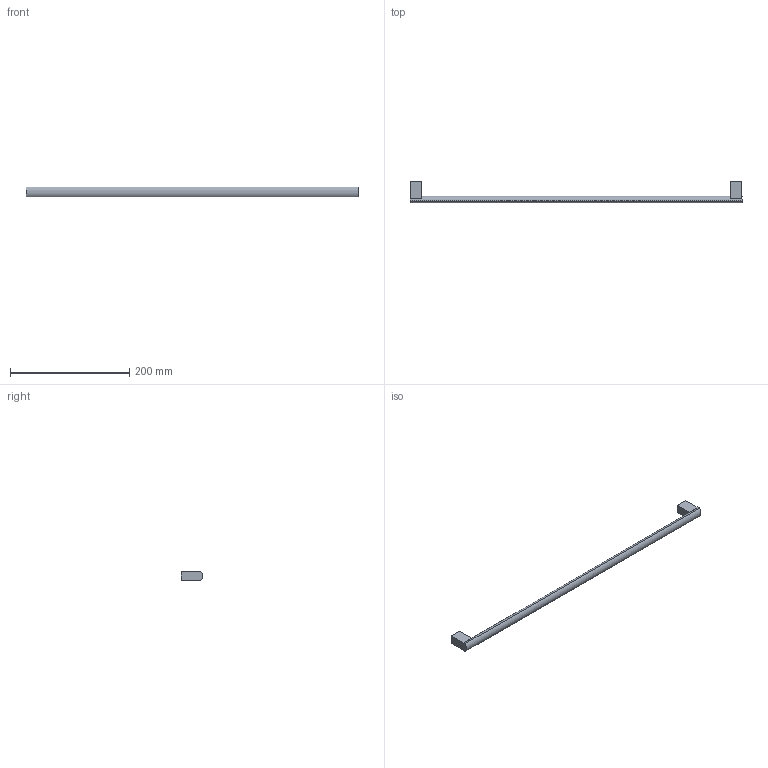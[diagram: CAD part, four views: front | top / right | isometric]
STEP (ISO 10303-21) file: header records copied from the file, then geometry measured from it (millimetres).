
FILE_DESCRIPTION( ( 'STEP AP214' ), '1' );
FILE_NAME( 'D:/Shahbaz D&D/Task/Check and correct handles with 3 drill sockets/Clivia/115214.stp', '2023-02-20T11:09:00', ( '' ), ( '' ), ' ', 'PARTsolutions', ' ' );
FILE_SCHEMA( ( 'AUTOMOTIVE_DESIGN { 1 0 10303 214 1 1 1 1 }' ) );
Length unit declared in the file: millimetre
Products named in the file (1): _115214
Bounding box: 556 x 35.96 x 16 mm (x, y, z)
Volume: 89804.9 mm3; surface area: 28027.9 mm2
Topology: 1 solids, 1 shells, 21 faces, 48 edges, 32 vertices
Faces by surface type: plane 17, cylinder 4
Full cylindrical faces by diameter (mm): 4 x2
Entity records: 768 total; most frequent: DIRECTION 102, CARTESIAN_POINT 100, ORIENTED_EDGE 92, EDGE_CURVE 46, AXIS2_PLACEMENT_3D 34, LINE 34, VECTOR 34, VERTEX_POINT 32
